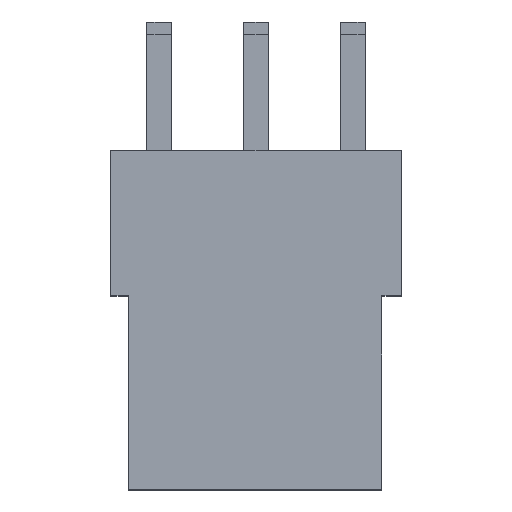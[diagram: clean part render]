
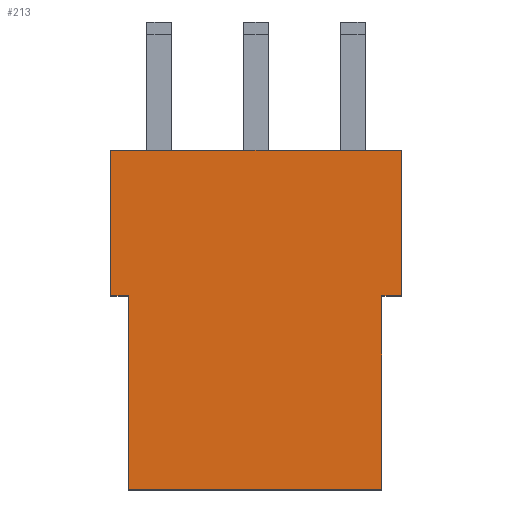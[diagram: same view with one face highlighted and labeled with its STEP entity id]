
A CAD part, top view. The second image highlights one B-rep face of the part: STEP entity #213.
In plain terms, the highlighted planar face has unit normal (0, 0, 1).
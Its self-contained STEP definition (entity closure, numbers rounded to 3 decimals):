
#24 = VERTEX_POINT('',#25);
#25 = CARTESIAN_POINT('',(-6.35,-6.86,6.35));
#32 = PLANE('',#33);
#33 = AXIS2_PLACEMENT_3D('',#34,#35,#36);
#34 = CARTESIAN_POINT('',(-6.35,-6.86,0.));
#35 = DIRECTION('',(1.,0.,0.));
#36 = DIRECTION('',(0.,0.,1.));
#44 = PLANE('',#45);
#45 = AXIS2_PLACEMENT_3D('',#46,#47,#48);
#46 = CARTESIAN_POINT('',(-6.35,-6.86,0.));
#47 = DIRECTION('',(0.,1.,0.));
#48 = DIRECTION('',(0.,0.,1.));
#85 = VERTEX_POINT('',#86);
#86 = CARTESIAN_POINT('',(-6.35,-3.05,6.35));
#100 = PLANE('',#101);
#101 = AXIS2_PLACEMENT_3D('',#102,#103,#104);
#102 = CARTESIAN_POINT('',(-6.35,-3.05,0.));
#103 = DIRECTION('',(0.,1.,0.));
#104 = DIRECTION('',(0.,0.,1.));
#112 = EDGE_CURVE('',#24,#85,#113,.T.);
#113 = SURFACE_CURVE('',#114,(#118,#125),.PCURVE_S1.);
#114 = LINE('',#115,#116);
#115 = CARTESIAN_POINT('',(-6.35,-6.86,6.35));
#116 = VECTOR('',#117,1.);
#117 = DIRECTION('',(0.,1.,0.));
#118 = PCURVE('',#32,#119);
#119 = DEFINITIONAL_REPRESENTATION('',(#120),#124);
#120 = LINE('',#121,#122);
#121 = CARTESIAN_POINT('',(6.35,0.));
#122 = VECTOR('',#123,1.);
#123 = DIRECTION('',(0.,-1.));
#124 = ( GEOMETRIC_REPRESENTATION_CONTEXT(2) 
PARAMETRIC_REPRESENTATION_CONTEXT() REPRESENTATION_CONTEXT('2D SPACE',''
  ) );
#125 = PCURVE('',#126,#131);
#126 = PLANE('',#127);
#127 = AXIS2_PLACEMENT_3D('',#128,#129,#130);
#128 = CARTESIAN_POINT('',(-6.35,-6.86,6.35));
#129 = DIRECTION('',(0.,0.,1.));
#130 = DIRECTION('',(1.,0.,0.));
#131 = DEFINITIONAL_REPRESENTATION('',(#132),#136);
#132 = LINE('',#133,#134);
#133 = CARTESIAN_POINT('',(0.,0.));
#134 = VECTOR('',#135,1.);
#135 = DIRECTION('',(0.,1.));
#136 = ( GEOMETRIC_REPRESENTATION_CONTEXT(2) 
PARAMETRIC_REPRESENTATION_CONTEXT() REPRESENTATION_CONTEXT('2D SPACE',''
  ) );
#165 = EDGE_CURVE('',#24,#166,#168,.T.);
#166 = VERTEX_POINT('',#167);
#167 = CARTESIAN_POINT('',(-5.88,-6.86,6.35));
#168 = SURFACE_CURVE('',#169,(#173,#180),.PCURVE_S1.);
#169 = LINE('',#170,#171);
#170 = CARTESIAN_POINT('',(-6.35,-6.86,6.35));
#171 = VECTOR('',#172,1.);
#172 = DIRECTION('',(1.,0.,0.));
#173 = PCURVE('',#44,#174);
#174 = DEFINITIONAL_REPRESENTATION('',(#175),#179);
#175 = LINE('',#176,#177);
#176 = CARTESIAN_POINT('',(6.35,0.));
#177 = VECTOR('',#178,1.);
#178 = DIRECTION('',(0.,1.));
#179 = ( GEOMETRIC_REPRESENTATION_CONTEXT(2) 
PARAMETRIC_REPRESENTATION_CONTEXT() REPRESENTATION_CONTEXT('2D SPACE',''
  ) );
#180 = PCURVE('',#126,#181);
#181 = DEFINITIONAL_REPRESENTATION('',(#182),#186);
#182 = LINE('',#183,#184);
#183 = CARTESIAN_POINT('',(0.,0.));
#184 = VECTOR('',#185,1.);
#185 = DIRECTION('',(1.,0.));
#186 = ( GEOMETRIC_REPRESENTATION_CONTEXT(2) 
PARAMETRIC_REPRESENTATION_CONTEXT() REPRESENTATION_CONTEXT('2D SPACE',''
  ) );
#202 = PLANE('',#203);
#203 = AXIS2_PLACEMENT_3D('',#204,#205,#206);
#204 = CARTESIAN_POINT('',(-5.88,-11.94,0.));
#205 = DIRECTION('',(1.,0.,0.));
#206 = DIRECTION('',(0.,0.,1.));
#213 = ADVANCED_FACE('',(#214),#126,.T.);
#214 = FACE_BOUND('',#215,.T.);
#215 = EDGE_LOOP('',(#216,#217,#218,#241,#269,#297,#325,#353));
#216 = ORIENTED_EDGE('',*,*,#112,.F.);
#217 = ORIENTED_EDGE('',*,*,#165,.T.);
#218 = ORIENTED_EDGE('',*,*,#219,.F.);
#219 = EDGE_CURVE('',#220,#166,#222,.T.);
#220 = VERTEX_POINT('',#221);
#221 = CARTESIAN_POINT('',(-5.88,-11.94,6.35));
#222 = SURFACE_CURVE('',#223,(#227,#234),.PCURVE_S1.);
#223 = LINE('',#224,#225);
#224 = CARTESIAN_POINT('',(-5.88,-11.94,6.35));
#225 = VECTOR('',#226,1.);
#226 = DIRECTION('',(0.,1.,0.));
#227 = PCURVE('',#126,#228);
#228 = DEFINITIONAL_REPRESENTATION('',(#229),#233);
#229 = LINE('',#230,#231);
#230 = CARTESIAN_POINT('',(0.47,-5.08));
#231 = VECTOR('',#232,1.);
#232 = DIRECTION('',(0.,1.));
#233 = ( GEOMETRIC_REPRESENTATION_CONTEXT(2) 
PARAMETRIC_REPRESENTATION_CONTEXT() REPRESENTATION_CONTEXT('2D SPACE',''
  ) );
#234 = PCURVE('',#202,#235);
#235 = DEFINITIONAL_REPRESENTATION('',(#236),#240);
#236 = LINE('',#237,#238);
#237 = CARTESIAN_POINT('',(6.35,0.));
#238 = VECTOR('',#239,1.);
#239 = DIRECTION('',(0.,-1.));
#240 = ( GEOMETRIC_REPRESENTATION_CONTEXT(2) 
PARAMETRIC_REPRESENTATION_CONTEXT() REPRESENTATION_CONTEXT('2D SPACE',''
  ) );
#241 = ORIENTED_EDGE('',*,*,#242,.T.);
#242 = EDGE_CURVE('',#220,#243,#245,.T.);
#243 = VERTEX_POINT('',#244);
#244 = CARTESIAN_POINT('',(0.76,-11.94,6.35));
#245 = SURFACE_CURVE('',#246,(#250,#257),.PCURVE_S1.);
#246 = LINE('',#247,#248);
#247 = CARTESIAN_POINT('',(-5.88,-11.94,6.35));
#248 = VECTOR('',#249,1.);
#249 = DIRECTION('',(1.,0.,0.));
#250 = PCURVE('',#126,#251);
#251 = DEFINITIONAL_REPRESENTATION('',(#252),#256);
#252 = LINE('',#253,#254);
#253 = CARTESIAN_POINT('',(0.47,-5.08));
#254 = VECTOR('',#255,1.);
#255 = DIRECTION('',(1.,0.));
#256 = ( GEOMETRIC_REPRESENTATION_CONTEXT(2) 
PARAMETRIC_REPRESENTATION_CONTEXT() REPRESENTATION_CONTEXT('2D SPACE',''
  ) );
#257 = PCURVE('',#258,#263);
#258 = PLANE('',#259);
#259 = AXIS2_PLACEMENT_3D('',#260,#261,#262);
#260 = CARTESIAN_POINT('',(-5.88,-11.94,0.));
#261 = DIRECTION('',(0.,1.,0.));
#262 = DIRECTION('',(0.,0.,1.));
#263 = DEFINITIONAL_REPRESENTATION('',(#264),#268);
#264 = LINE('',#265,#266);
#265 = CARTESIAN_POINT('',(6.35,0.));
#266 = VECTOR('',#267,1.);
#267 = DIRECTION('',(0.,1.));
#268 = ( GEOMETRIC_REPRESENTATION_CONTEXT(2) 
PARAMETRIC_REPRESENTATION_CONTEXT() REPRESENTATION_CONTEXT('2D SPACE',''
  ) );
#269 = ORIENTED_EDGE('',*,*,#270,.T.);
#270 = EDGE_CURVE('',#243,#271,#273,.T.);
#271 = VERTEX_POINT('',#272);
#272 = CARTESIAN_POINT('',(0.76,-6.86,6.35));
#273 = SURFACE_CURVE('',#274,(#278,#285),.PCURVE_S1.);
#274 = LINE('',#275,#276);
#275 = CARTESIAN_POINT('',(0.76,-11.94,6.35));
#276 = VECTOR('',#277,1.);
#277 = DIRECTION('',(0.,1.,0.));
#278 = PCURVE('',#126,#279);
#279 = DEFINITIONAL_REPRESENTATION('',(#280),#284);
#280 = LINE('',#281,#282);
#281 = CARTESIAN_POINT('',(7.11,-5.08));
#282 = VECTOR('',#283,1.);
#283 = DIRECTION('',(0.,1.));
#284 = ( GEOMETRIC_REPRESENTATION_CONTEXT(2) 
PARAMETRIC_REPRESENTATION_CONTEXT() REPRESENTATION_CONTEXT('2D SPACE',''
  ) );
#285 = PCURVE('',#286,#291);
#286 = PLANE('',#287);
#287 = AXIS2_PLACEMENT_3D('',#288,#289,#290);
#288 = CARTESIAN_POINT('',(0.76,-11.94,0.));
#289 = DIRECTION('',(1.,0.,0.));
#290 = DIRECTION('',(0.,0.,1.));
#291 = DEFINITIONAL_REPRESENTATION('',(#292),#296);
#292 = LINE('',#293,#294);
#293 = CARTESIAN_POINT('',(6.35,0.));
#294 = VECTOR('',#295,1.);
#295 = DIRECTION('',(0.,-1.));
#296 = ( GEOMETRIC_REPRESENTATION_CONTEXT(2) 
PARAMETRIC_REPRESENTATION_CONTEXT() REPRESENTATION_CONTEXT('2D SPACE',''
  ) );
#297 = ORIENTED_EDGE('',*,*,#298,.T.);
#298 = EDGE_CURVE('',#271,#299,#301,.T.);
#299 = VERTEX_POINT('',#300);
#300 = CARTESIAN_POINT('',(1.27,-6.86,6.35));
#301 = SURFACE_CURVE('',#302,(#306,#313),.PCURVE_S1.);
#302 = LINE('',#303,#304);
#303 = CARTESIAN_POINT('',(-6.35,-6.86,6.35));
#304 = VECTOR('',#305,1.);
#305 = DIRECTION('',(1.,0.,0.));
#306 = PCURVE('',#126,#307);
#307 = DEFINITIONAL_REPRESENTATION('',(#308),#312);
#308 = LINE('',#309,#310);
#309 = CARTESIAN_POINT('',(0.,0.));
#310 = VECTOR('',#311,1.);
#311 = DIRECTION('',(1.,0.));
#312 = ( GEOMETRIC_REPRESENTATION_CONTEXT(2) 
PARAMETRIC_REPRESENTATION_CONTEXT() REPRESENTATION_CONTEXT('2D SPACE',''
  ) );
#313 = PCURVE('',#314,#319);
#314 = PLANE('',#315);
#315 = AXIS2_PLACEMENT_3D('',#316,#317,#318);
#316 = CARTESIAN_POINT('',(-6.35,-6.86,0.));
#317 = DIRECTION('',(0.,1.,0.));
#318 = DIRECTION('',(0.,0.,1.));
#319 = DEFINITIONAL_REPRESENTATION('',(#320),#324);
#320 = LINE('',#321,#322);
#321 = CARTESIAN_POINT('',(6.35,0.));
#322 = VECTOR('',#323,1.);
#323 = DIRECTION('',(0.,1.));
#324 = ( GEOMETRIC_REPRESENTATION_CONTEXT(2) 
PARAMETRIC_REPRESENTATION_CONTEXT() REPRESENTATION_CONTEXT('2D SPACE',''
  ) );
#325 = ORIENTED_EDGE('',*,*,#326,.T.);
#326 = EDGE_CURVE('',#299,#327,#329,.T.);
#327 = VERTEX_POINT('',#328);
#328 = CARTESIAN_POINT('',(1.27,-3.05,6.35));
#329 = SURFACE_CURVE('',#330,(#334,#341),.PCURVE_S1.);
#330 = LINE('',#331,#332);
#331 = CARTESIAN_POINT('',(1.27,-6.86,6.35));
#332 = VECTOR('',#333,1.);
#333 = DIRECTION('',(0.,1.,0.));
#334 = PCURVE('',#126,#335);
#335 = DEFINITIONAL_REPRESENTATION('',(#336),#340);
#336 = LINE('',#337,#338);
#337 = CARTESIAN_POINT('',(7.62,0.));
#338 = VECTOR('',#339,1.);
#339 = DIRECTION('',(0.,1.));
#340 = ( GEOMETRIC_REPRESENTATION_CONTEXT(2) 
PARAMETRIC_REPRESENTATION_CONTEXT() REPRESENTATION_CONTEXT('2D SPACE',''
  ) );
#341 = PCURVE('',#342,#347);
#342 = PLANE('',#343);
#343 = AXIS2_PLACEMENT_3D('',#344,#345,#346);
#344 = CARTESIAN_POINT('',(1.27,-6.86,0.));
#345 = DIRECTION('',(1.,0.,0.));
#346 = DIRECTION('',(0.,0.,1.));
#347 = DEFINITIONAL_REPRESENTATION('',(#348),#352);
#348 = LINE('',#349,#350);
#349 = CARTESIAN_POINT('',(6.35,0.));
#350 = VECTOR('',#351,1.);
#351 = DIRECTION('',(0.,-1.));
#352 = ( GEOMETRIC_REPRESENTATION_CONTEXT(2) 
PARAMETRIC_REPRESENTATION_CONTEXT() REPRESENTATION_CONTEXT('2D SPACE',''
  ) );
#353 = ORIENTED_EDGE('',*,*,#354,.F.);
#354 = EDGE_CURVE('',#85,#327,#355,.T.);
#355 = SURFACE_CURVE('',#356,(#360,#367),.PCURVE_S1.);
#356 = LINE('',#357,#358);
#357 = CARTESIAN_POINT('',(-6.35,-3.05,6.35));
#358 = VECTOR('',#359,1.);
#359 = DIRECTION('',(1.,0.,0.));
#360 = PCURVE('',#126,#361);
#361 = DEFINITIONAL_REPRESENTATION('',(#362),#366);
#362 = LINE('',#363,#364);
#363 = CARTESIAN_POINT('',(0.,3.81));
#364 = VECTOR('',#365,1.);
#365 = DIRECTION('',(1.,0.));
#366 = ( GEOMETRIC_REPRESENTATION_CONTEXT(2) 
PARAMETRIC_REPRESENTATION_CONTEXT() REPRESENTATION_CONTEXT('2D SPACE',''
  ) );
#367 = PCURVE('',#100,#368);
#368 = DEFINITIONAL_REPRESENTATION('',(#369),#373);
#369 = LINE('',#370,#371);
#370 = CARTESIAN_POINT('',(6.35,0.));
#371 = VECTOR('',#372,1.);
#372 = DIRECTION('',(0.,1.));
#373 = ( GEOMETRIC_REPRESENTATION_CONTEXT(2) 
PARAMETRIC_REPRESENTATION_CONTEXT() REPRESENTATION_CONTEXT('2D SPACE',''
  ) );
